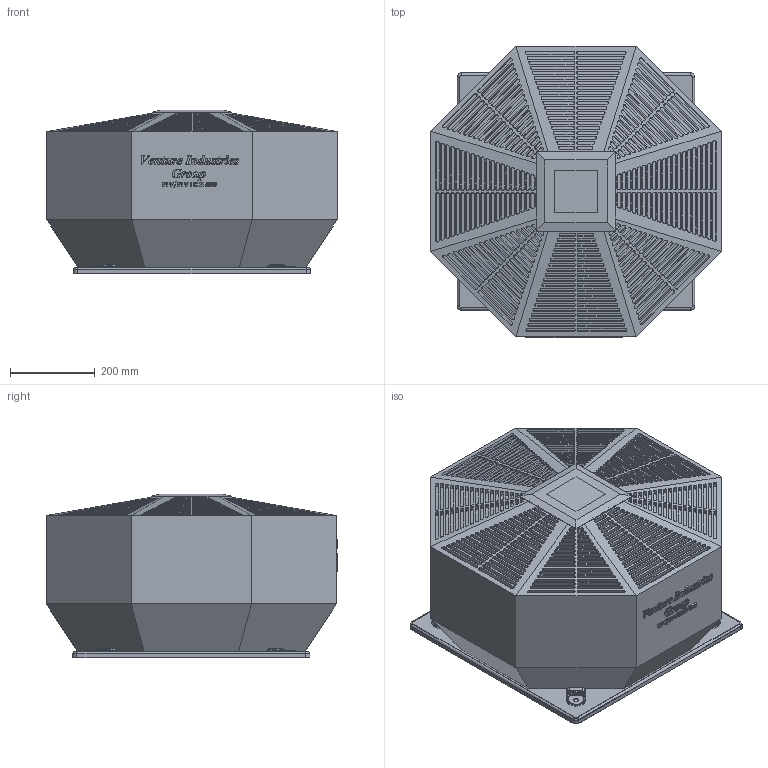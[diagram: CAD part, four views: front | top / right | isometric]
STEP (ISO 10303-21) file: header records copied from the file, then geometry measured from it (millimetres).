
FILE_DESCRIPTION(/* description */ (''),/* implementation_level */ '2;1');
FILE_NAME(/* name */ 'D:\Piotr - Dokumenty\Modele uproszczone\RFV\RFV X-355\komplet\RFV_RFV_EC_X_355_X.stp',/* time_stamp */ '2021-03-15T11:28:41+01:00',/* author */ ('Piotr.Nowotniak'),/* organization */ (''),/* preprocessor_version */ 'ST-DEVELOPER v18',/* originating_system */ 'Autodesk Inventor 2020',/* authorisation */ '');
FILE_SCHEMA (('AUTOMOTIVE_DESIGN { 1 0 10303 214 3 1 1 }'));
Products named in the file (1): RFV_RFV_EC_X_355_X
Bounding box: 685 x 688 x 387 mm (x, y, z)
Volume: 123178396.4 mm3; surface area: 2123923.7 mm2
Topology: 1 solids, 2 shells, 3795 faces, 10134 edges, 6711 vertices
Faces by surface type: plane 1973, cylinder 1335, bspline 464, torus 22, cone 1
Full cylindrical faces by diameter (mm): 12 x4, 398.665 x1, 450 x1, 451.076 x1
Entity records: 126978 total; most frequent: CARTESIAN_POINT 29400, ORIENTED_EDGE 20268, DIRECTION 18635, EDGE_CURVE 10134, VERTEX_POINT 6711, LINE 6463, VECTOR 6463, AXIS2_PLACEMENT_3D 6086
